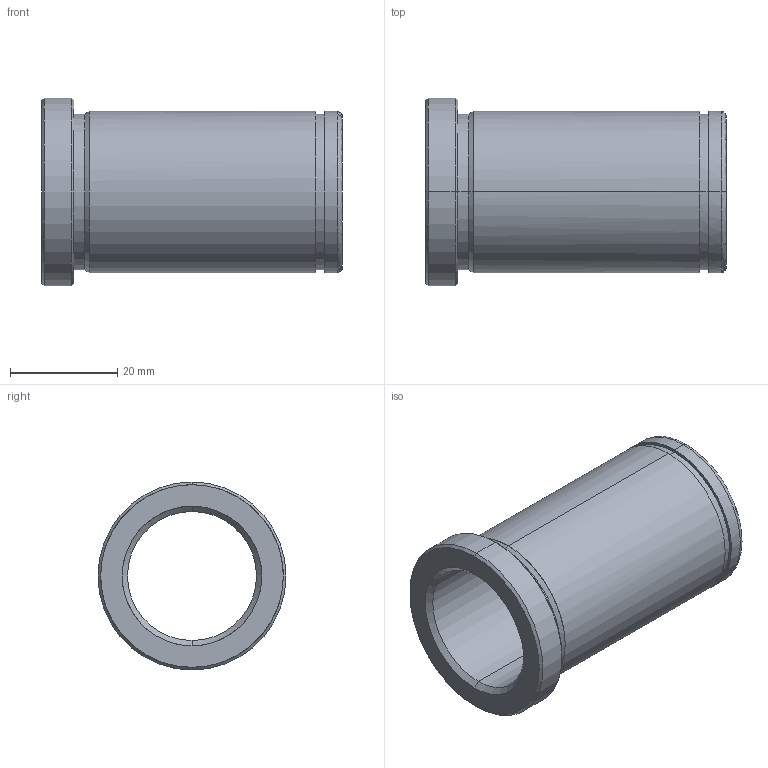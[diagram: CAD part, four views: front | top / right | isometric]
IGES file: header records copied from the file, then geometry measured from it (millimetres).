
Start section: START RECORD GO HERE.
Global section: file name: 553-24X56.igs; native system: DASSAULT SYSTEMES CATIA V5 R20 - www.3ds.com; preprocessor: CATIA Version 5 Release 20 ; author: Utente; organization: NB04-ASUS; date: 20210525.202154; units: millimetre
Bounding box: 56 x 35 x 35 mm (x, y, z)
Surface area: 10556.3 mm2 (no closed solid volume)
Topology: 0 solids, 0 shells, 29 faces, 184 edges, 184 vertices
Faces by surface type: revolution 24, plane 5
